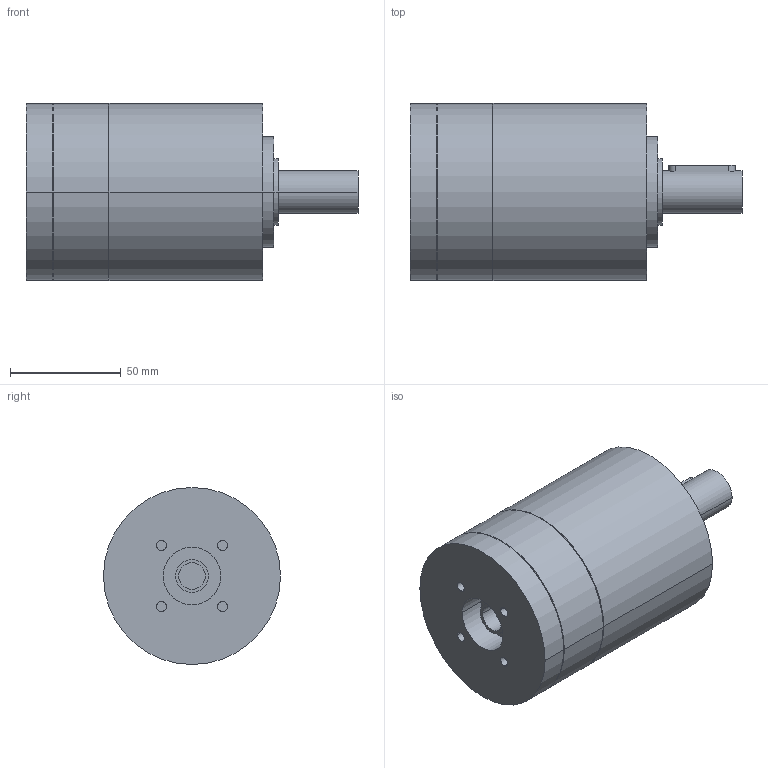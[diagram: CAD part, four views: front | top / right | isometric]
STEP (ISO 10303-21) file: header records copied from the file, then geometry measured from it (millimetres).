
FILE_DESCRIPTION(('CoCreate Modeling STEP Export'),'2;1');
FILE_NAME('GPR100_ig-3-4-5-6_19_B14_12.7_P09.stp','2014-08-26T10:06:50',(''),(''),'CoCreate Modeling STEP processor for AP214 (Solid Model)','CoCreate Modeling 16.00C 25-Feb-2009 (C) Parametric Technology GmbH','');
FILE_SCHEMA(('AUTOMOTIVE_DESIGN { 1 0 10303 214 1 1 1 1 }'));
Length unit declared in the file: millimetre
Products named in the file (2): GPR100_ig-3-4-5-6_19_B14_12.7_P09
Assembly tree (1 placements, depth 2):
  GPR100_ig-3-4-5-6_19_B14_12.7_P09
    GPR100_ig-3-4-5-6_19_B14_12.7_P09
Bounding box: 150 x 80 x 80 mm (x, y, z)
Volume: 548508.6 mm3; surface area: 45175 mm2
Topology: 1 solids, 1 shells, 77 faces, 195 edges, 139 vertices
Faces by surface type: cylinder 46, plane 25, cone 6
Entity records: 1961 total; most frequent: ORIENTED_EDGE 386, CARTESIAN_POINT 359, DIRECTION 254, EDGE_CURVE 193, VERTEX_POINT 139, AXIS2_PLACEMENT_3D 98, EDGE_LOOP 98, FACE_OUTER_BOUND 77
